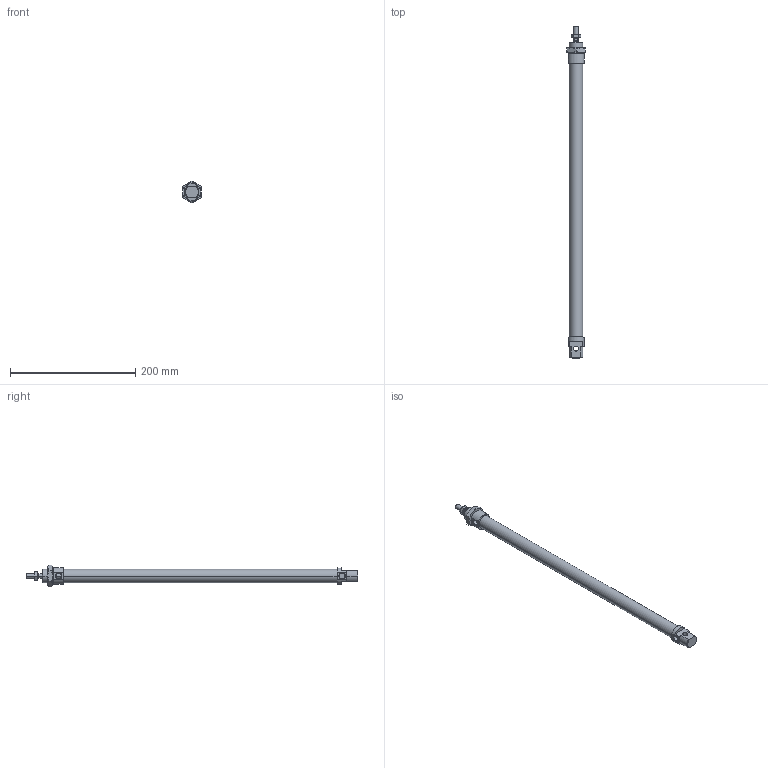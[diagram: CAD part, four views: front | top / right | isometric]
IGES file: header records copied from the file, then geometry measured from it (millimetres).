
Global section: file name: No Iges File Name specified; native system: AutoDesk Inventor R6.0; preprocessor: AutoDesk Inventor Iges Exporter R6.0; author: No Author specified; organization: No Organization specified; date: 20030407.191449; units: millimetre
Bounding box: 30 x 530 x 34.64 mm (x, y, z)
Volume: 185552.5 mm3; surface area: 61278.3 mm2
Topology: 4 solids, 4 shells, 124 faces, 281 edges, 170 vertices
Faces by surface type: plane 41, cone 38, bspline 21, cylinder 18, revolution 6
